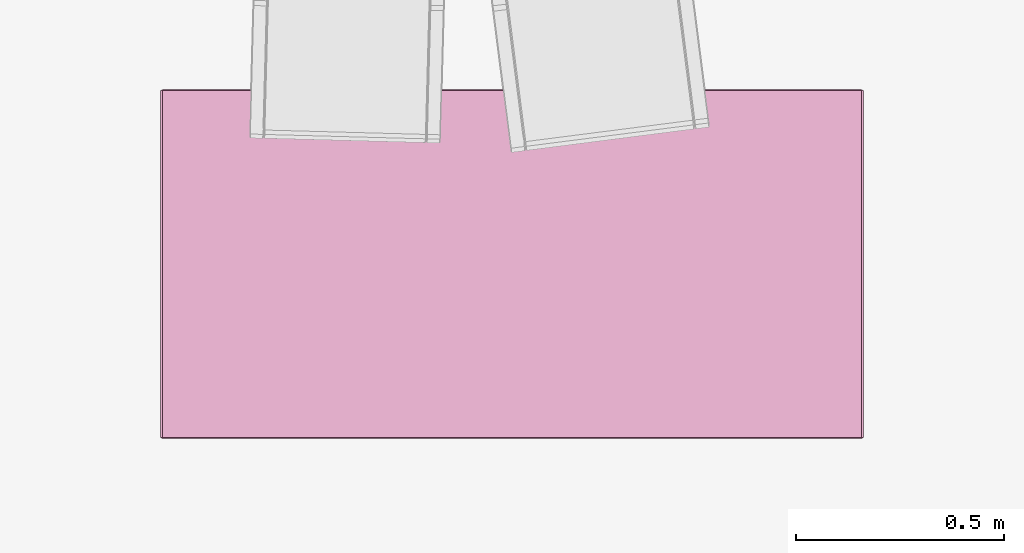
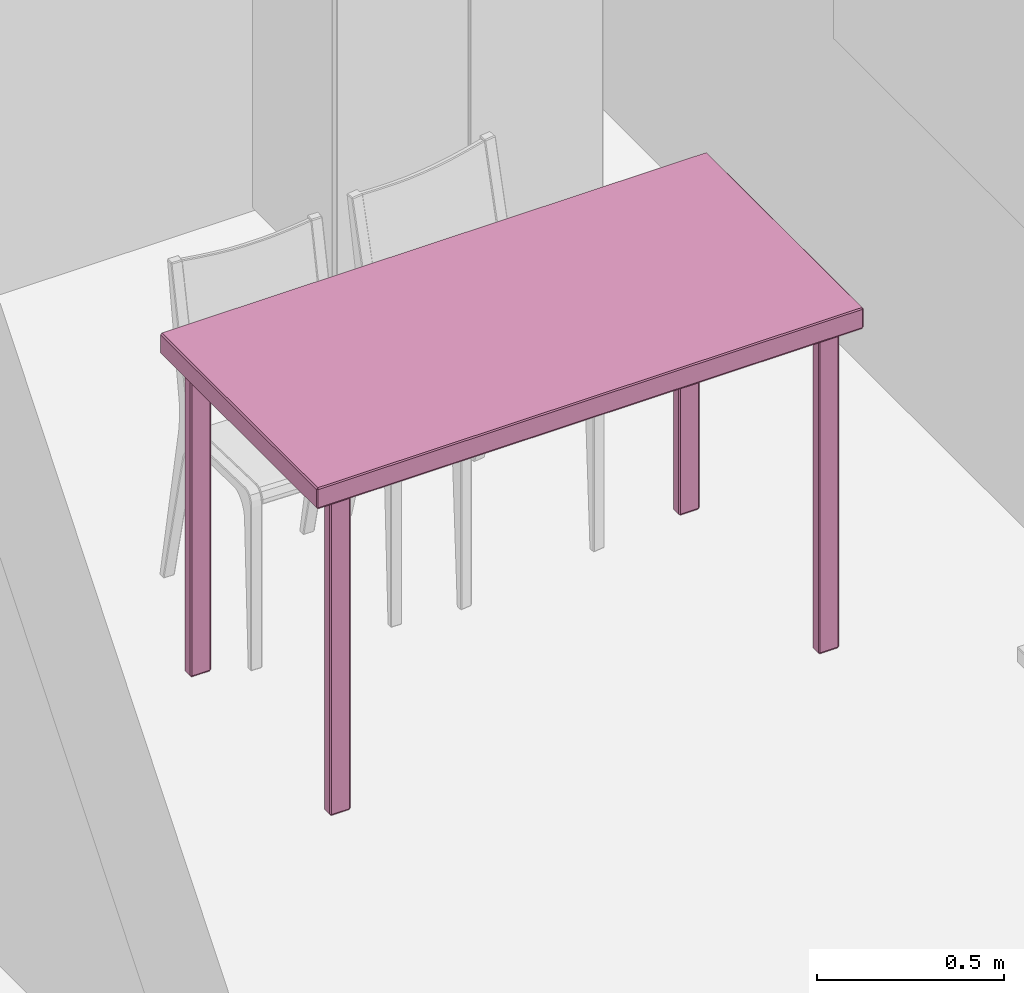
# One storey, part 25 of 26: 1 furniture element.
"""IFC4 building model written with IfcOpenShell, lengths in metres."""

from ifc_helpers import new_model, si_unit, direction, frame, origin_with_axes, place, context, project, spatial, polygons, type_object, element, save


model = new_model("IFC4")

# Units and contexts
model_context = context("Model", 3, precision=1e-05, world=origin_with_axes(), true_north=direction((0.996, -0.093, 0.0)))
ifc_project = project(units=[si_unit("LENGTHUNIT", "METRE"), si_unit("AREAUNIT", "SQUARE_METRE")], contexts=[model_context])

# Site, building, storey, space
site_placement = place(None, origin_with_axes())
site = spatial("IfcSite", under=ifc_project, at=site_placement, Name="Site", CompositionType="ELEMENT")
building_placement = place(site_placement, origin_with_axes())
building = spatial("IfcBuilding", under=site, at=building_placement, Name="Building", CompositionType="ELEMENT")
storey_placement = place(building_placement, frame((0.0, 0.0, 0.0500001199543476), z_axis=(0.0, 0.0, 1.0), x_axis=(1.0, 0.0, 0.0)))
storey = spatial("IfcBuildingStorey", under=building, at=storey_placement, Name="Story 0", CompositionType="ELEMENT", Elevation=0.0500000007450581)
space_placement = place(storey_placement, frame((26.3265957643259, 5.77526912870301, 0.0), z_axis=(0.0, 0.0, 1.0), x_axis=(1.0, 0.0, 0.0)))
space = spatial("IfcSpace", under=storey, at=space_placement, Name="012", CompositionType="ELEMENT")

# Furniture
furniture_type = type_object("IfcFurnitureType", Name="6c907b45-ae28-4f84-a248-2c9baa9ad02d", AssemblyPlace="NOTDEFINED", PredefinedType="USERDEFINED")
furniture_placement = place(space_placement, frame((1.70349075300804, 3.16185416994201, 0.554396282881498), z_axis=(0.0, 0.0, 0.999999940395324), x_axis=(0.0, 0.999999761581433, 0.0)))
element("IfcFurniture", 1, at=furniture_placement, inside=space, type_object=furniture_type, Name="Table", ObjectType="Table", PredefinedType="USERDEFINED", context=model_context, shape_type="Tessellation", body=[
    polygons([(0.4166, 0.844, 0.4901), (-0.4166, 0.844, 0.4901), (0.4166, 0.844, 0.5495), (-0.4166, 0.844, 0.5495), (0.4166, 0.844, 0.5495), (-0.4166, 0.844, 0.4901), (0.3571, -0.7815, 0.5026), (0.3571, -0.7262, 0.5026), (0.3571, -0.7815, -0.5495), (0.3571, -0.7262, -0.5495), (0.3571, -0.7815, -0.5495), (0.3571, -0.7262, 0.5026), (0.3867, -0.7857, 0.5026), (0.3592, -0.7857, 0.5026), (0.3867, -0.7857, -0.5495), (0.3592, -0.7857, -0.5495), (0.3867, -0.7857, -0.5495), (0.3592, -0.7857, 0.5026), (0.3888, -0.7262, 0.5026), (0.3888, -0.7815, 0.5026), (0.3888, -0.7262, -0.5495), (0.3888, -0.7815, -0.5495), (0.3888, -0.7262, -0.5495), (0.3888, -0.7815, 0.5026), (0.3592, -0.7219, 0.5026), (0.3867, -0.7219, 0.5026), (0.3592, -0.7219, -0.5495), (0.3867, -0.7219, -0.5495), (0.3592, -0.7219, -0.5495), (0.3867, -0.7219, 0.5026), (0.3571, 0.7815, 0.5026), (0.3571, 0.7815, -0.5495), (0.3571, 0.7262, 0.5026), (0.3571, 0.7262, -0.5495), (0.3571, 0.7262, 0.5026), (0.3571, 0.7815, -0.5495), (0.3867, 0.7857, 0.5026), (0.3867, 0.7857, -0.5495), (0.3592, 0.7857, 0.5026), (0.3592, 0.7857, -0.5495), (0.3592, 0.7857, 0.5026), (0.3867, 0.7857, -0.5495), (0.3888, 0.7262, 0.5026), (0.3888, 0.7262, -0.5495), (0.3888, 0.7815, 0.5026), (0.3888, 0.7815, -0.5495), (0.3888, 0.7815, 0.5026), (0.3888, 0.7262, -0.5495), (0.3592, 0.7219, 0.5026), (0.3592, 0.7219, -0.5495), (0.3867, 0.7219, 0.5026), (0.3867, 0.7219, -0.5495), (0.3867, 0.7219, 0.5026), (0.3592, 0.7219, -0.5495), (0.4187, 0.8398, 0.4901), (0.4187, 0.8398, 0.5495), (0.4187, -0.8398, 0.4901), (0.4187, -0.8398, 0.5495), (0.4187, -0.8398, 0.4901), (0.4187, 0.8398, 0.5495), (-0.4187, 0.8398, 0.5495), (-0.4187, 0.8398, 0.4901), (-0.4187, -0.8398, 0.5495), (-0.4187, -0.8398, 0.4901), (-0.4187, -0.8398, 0.5495), (-0.4187, 0.8398, 0.4901), (-0.3571, -0.7815, 0.5026), (-0.3571, -0.7815, -0.5495), (-0.3571, -0.7262, 0.5026), (-0.3571, -0.7262, -0.5495), (-0.3571, -0.7262, 0.5026), (-0.3571, -0.7815, -0.5495), (-0.3867, -0.7857, 0.5026), (-0.3867, -0.7857, -0.5495), (-0.3592, -0.7857, 0.5026), (-0.3592, -0.7857, -0.5495), (-0.3592, -0.7857, 0.5026), (-0.3867, -0.7857, -0.5495), (-0.3888, -0.7262, 0.5026), (-0.3888, -0.7262, -0.5495), (-0.3888, -0.7815, 0.5026), (-0.3888, -0.7815, -0.5495), (-0.3888, -0.7815, 0.5026), (-0.3888, -0.7262, -0.5495), (-0.3592, -0.7219, 0.5026), (-0.3592, -0.7219, -0.5495), (-0.3867, -0.7219, 0.5026), (-0.3867, -0.7219, -0.5495), (-0.3867, -0.7219, 0.5026), (-0.3592, -0.7219, -0.5495), (-0.3571, 0.7815, 0.5026), (-0.3571, 0.7262, 0.5026), (-0.3571, 0.7815, -0.5495), (-0.3571, 0.7262, -0.5495), (-0.3571, 0.7815, -0.5495), (-0.3571, 0.7262, 0.5026), (-0.3867, 0.7857, 0.5026), (-0.3592, 0.7857, 0.5026), (-0.3867, 0.7857, -0.5495), (-0.3592, 0.7857, -0.5495), (-0.3867, 0.7857, -0.5495), (-0.3592, 0.7857, 0.5026), (-0.3888, 0.7262, 0.5026), (-0.3888, 0.7815, 0.5026), (-0.3888, 0.7262, -0.5495), (-0.3888, 0.7815, -0.5495), (-0.3888, 0.7262, -0.5495), (-0.3888, 0.7815, 0.5026), (-0.3592, 0.7219, 0.5026), (-0.3867, 0.7219, 0.5026), (-0.3592, 0.7219, -0.5495), (-0.3867, 0.7219, -0.5495), (-0.3592, 0.7219, -0.5495), (-0.3867, 0.7219, 0.5026), (-0.4166, 0.8398, 0.5544), (-0.4166, -0.8398, 0.5544), (0.4166, 0.8398, 0.5544), (0.4166, -0.8398, 0.5544), (0.4166, 0.8398, 0.5544), (-0.4166, -0.8398, 0.5544), (0.4166, -0.844, 0.4901), (0.4166, -0.844, 0.5495), (-0.4166, -0.844, 0.4901), (-0.4166, -0.844, 0.5495), (-0.4166, -0.844, 0.4901), (0.4166, -0.844, 0.5495), (0.4166, -0.8398, 0.4852), (-0.4166, -0.8398, 0.4852), (0.4166, 0.8398, 0.4852), (-0.4166, 0.8398, 0.4852), (0.4166, 0.8398, 0.4852), (-0.4166, -0.8398, 0.4852), (0.3867, -0.7815, 0.5074), (0.3867, -0.7262, 0.5074), (0.3592, -0.7815, 0.5074), (0.3592, -0.7262, 0.5074), (0.3592, -0.7815, 0.5074), (0.3867, -0.7262, 0.5074), (0.3867, -0.7262, -0.5544), (0.3867, -0.7815, -0.5544), (0.3592, -0.7262, -0.5544), (0.3592, -0.7815, -0.5544), (0.3592, -0.7262, -0.5544), (0.3867, -0.7815, -0.5544), (0.3867, 0.7815, -0.5544), (0.3867, 0.7262, -0.5544), (0.3592, 0.7815, -0.5544), (0.3592, 0.7262, -0.5544), (0.3592, 0.7815, -0.5544), (0.3867, 0.7262, -0.5544), (0.3867, 0.7262, 0.5074), (0.3867, 0.7815, 0.5074), (0.3592, 0.7262, 0.5074), (0.3592, 0.7815, 0.5074), (0.3592, 0.7262, 0.5074), (0.3867, 0.7815, 0.5074), (-0.3867, -0.7815, -0.5544), (-0.3867, -0.7262, -0.5544), (-0.3592, -0.7815, -0.5544), (-0.3592, -0.7262, -0.5544), (-0.3592, -0.7815, -0.5544), (-0.3867, -0.7262, -0.5544), (-0.3867, -0.7262, 0.5074), (-0.3867, -0.7815, 0.5074), (-0.3592, -0.7262, 0.5074), (-0.3592, -0.7815, 0.5074), (-0.3592, -0.7262, 0.5074), (-0.3867, -0.7815, 0.5074), (-0.3867, 0.7815, 0.5074), (-0.3867, 0.7262, 0.5074), (-0.3592, 0.7815, 0.5074), (-0.3592, 0.7262, 0.5074), (-0.3592, 0.7815, 0.5074), (-0.3867, 0.7262, 0.5074), (-0.3867, 0.7262, -0.5544), (-0.3867, 0.7815, -0.5544), (-0.3592, 0.7262, -0.5544), (-0.3592, 0.7815, -0.5544), (-0.3592, 0.7262, -0.5544), (-0.3867, 0.7815, -0.5544), (-0.4166, 0.8398, 0.5544), (-0.4166, 0.844, 0.5495), (-0.4187, 0.8398, 0.5495), (0.3592, -0.7262, -0.5544), (0.3571, -0.7262, -0.5495), (0.3592, -0.7219, -0.5495), (0.3592, -0.7815, -0.5544), (0.3592, -0.7857, -0.5495), (0.3571, -0.7815, -0.5495), (0.3867, -0.7815, -0.5544), (0.3888, -0.7815, -0.5495), (0.3867, -0.7857, -0.5495), (0.3867, -0.7262, -0.5544), (0.3867, -0.7219, -0.5495), (0.3888, -0.7262, -0.5495), (0.3592, -0.7262, 0.5074), (0.3592, -0.7219, 0.5026), (0.3571, -0.7262, 0.5026), (0.3592, 0.7219, -0.5495), (0.3571, 0.7262, -0.5495), (0.3592, 0.7262, -0.5544), (0.3592, 0.7815, 0.5074), (0.3592, 0.7857, 0.5026), (0.3571, 0.7815, 0.5026), (0.3867, 0.7815, 0.5074), (0.3888, 0.7815, 0.5026), (0.3867, 0.7857, 0.5026), (0.3867, 0.7262, 0.5074), (0.3867, 0.7219, 0.5026), (0.3888, 0.7262, 0.5026), (0.4166, -0.844, 0.5495), (0.4187, -0.8398, 0.5495), (0.4166, -0.8398, 0.5544), (0.4166, 0.8398, 0.5544), (0.4187, 0.8398, 0.5495), (0.4166, 0.844, 0.5495), (-0.4166, -0.844, 0.4901), (-0.4187, -0.8398, 0.4901), (-0.4166, -0.8398, 0.4852), (-0.4166, 0.8398, 0.4852), (-0.4187, 0.8398, 0.4901), (-0.4166, 0.844, 0.4901), (-0.3592, -0.7219, -0.5495), (-0.3571, -0.7262, -0.5495), (-0.3592, -0.7262, -0.5544), (-0.3592, -0.7815, 0.5074), (-0.3592, -0.7857, 0.5026), (-0.3571, -0.7815, 0.5026), (-0.3867, -0.7815, 0.5074), (-0.3888, -0.7815, 0.5026), (-0.3867, -0.7857, 0.5026), (-0.3867, -0.7262, 0.5074), (-0.3867, -0.7219, 0.5026), (-0.3888, -0.7262, 0.5026), (-0.3592, 0.7262, -0.5544), (-0.3571, 0.7262, -0.5495), (-0.3592, 0.7219, -0.5495), (-0.3592, 0.7815, -0.5544), (-0.3592, 0.7857, -0.5495), (-0.3571, 0.7815, -0.5495), (-0.3867, 0.7815, -0.5544), (-0.3888, 0.7815, -0.5495), (-0.3867, 0.7857, -0.5495), (-0.3867, 0.7262, -0.5544), (-0.3867, 0.7219, -0.5495), (-0.3888, 0.7262, -0.5495), (-0.3592, 0.7262, 0.5074), (-0.3592, 0.7219, 0.5026), (-0.3571, 0.7262, 0.5026), (-0.4166, -0.844, 0.5495), (-0.4166, -0.8398, 0.5544), (-0.4187, -0.8398, 0.5495), (0.4166, -0.844, 0.4901), (0.4166, -0.8398, 0.4852), (0.4187, -0.8398, 0.4901), (0.4187, 0.8398, 0.4901), (0.4166, 0.8398, 0.4852), (0.4166, 0.844, 0.4901), (0.3867, -0.7219, 0.5026), (0.3867, -0.7262, 0.5074), (0.3888, -0.7262, 0.5026), (0.3888, -0.7815, 0.5026), (0.3867, -0.7815, 0.5074), (0.3867, -0.7857, 0.5026), (0.3592, -0.7857, 0.5026), (0.3592, -0.7815, 0.5074), (0.3571, -0.7815, 0.5026), (0.3867, 0.7219, -0.5495), (0.3867, 0.7262, -0.5544), (0.3888, 0.7262, -0.5495), (0.3888, 0.7815, -0.5495), (0.3867, 0.7815, -0.5544), (0.3867, 0.7857, -0.5495), (0.3592, 0.7857, -0.5495), (0.3592, 0.7815, -0.5544), (0.3571, 0.7815, -0.5495), (0.3592, 0.7219, 0.5026), (0.3592, 0.7262, 0.5074), (0.3571, 0.7262, 0.5026), (-0.3867, -0.7219, -0.5495), (-0.3867, -0.7262, -0.5544), (-0.3888, -0.7262, -0.5495), (-0.3888, -0.7815, -0.5495), (-0.3867, -0.7815, -0.5544), (-0.3867, -0.7857, -0.5495), (-0.3592, -0.7857, -0.5495), (-0.3592, -0.7815, -0.5544), (-0.3571, -0.7815, -0.5495), (-0.3592, -0.7219, 0.5026), (-0.3592, -0.7262, 0.5074), (-0.3571, -0.7262, 0.5026), (-0.3867, 0.7219, 0.5026), (-0.3867, 0.7262, 0.5074), (-0.3888, 0.7262, 0.5026), (-0.3888, 0.7815, 0.5026), (-0.3867, 0.7815, 0.5074), (-0.3867, 0.7857, 0.5026), (-0.3592, 0.7857, 0.5026), (-0.3592, 0.7815, 0.5074), (-0.3571, 0.7815, 0.5026), (-0.4166, 0.844, 0.5495), (-0.4166, 0.844, 0.4901), (-0.4187, 0.8398, 0.5495), (-0.4187, 0.8398, 0.4901), (-0.4187, 0.8398, 0.5495), (-0.4166, 0.844, 0.4901), (-0.4166, 0.844, 0.4901), (0.4166, 0.844, 0.4901), (-0.4166, 0.8398, 0.4852), (0.4166, 0.8398, 0.4852), (-0.4166, 0.8398, 0.4852), (0.4166, 0.844, 0.4901), (0.4166, 0.844, 0.4901), (0.4166, 0.844, 0.5495), (0.4187, 0.8398, 0.4901), (0.4187, 0.8398, 0.5495), (0.4187, 0.8398, 0.4901), (0.4166, 0.844, 0.5495), (0.4166, 0.844, 0.5495), (-0.4166, 0.844, 0.5495), (0.4166, 0.8398, 0.5544), (-0.4166, 0.8398, 0.5544), (0.4166, 0.8398, 0.5544), (-0.4166, 0.844, 0.5495), (0.3571, -0.7262, -0.5495), (0.3571, -0.7262, 0.5026), (0.3592, -0.7219, -0.5495), (0.3592, -0.7219, 0.5026), (0.3592, -0.7219, -0.5495), (0.3571, -0.7262, 0.5026), (0.3571, -0.7262, 0.5026), (0.3571, -0.7815, 0.5026), (0.3592, -0.7262, 0.5074), (0.3592, -0.7815, 0.5074), (0.3592, -0.7262, 0.5074), (0.3571, -0.7815, 0.5026), (0.3571, -0.7815, 0.5026), (0.3571, -0.7815, -0.5495), (0.3592, -0.7857, 0.5026), (0.3592, -0.7857, -0.5495), (0.3592, -0.7857, 0.5026), (0.3571, -0.7815, -0.5495), (0.3571, -0.7815, -0.5495), (0.3571, -0.7262, -0.5495), (0.3592, -0.7815, -0.5544), (0.3592, -0.7262, -0.5544), (0.3592, -0.7815, -0.5544), (0.3571, -0.7262, -0.5495), (0.3592, -0.7857, 0.5026), (0.3867, -0.7857, 0.5026), (0.3592, -0.7815, 0.5074), (0.3867, -0.7815, 0.5074), (0.3592, -0.7815, 0.5074), (0.3867, -0.7857, 0.5026), (0.3867, -0.7857, 0.5026), (0.3867, -0.7857, -0.5495), (0.3888, -0.7815, 0.5026), (0.3888, -0.7815, -0.5495), (0.3888, -0.7815, 0.5026), (0.3867, -0.7857, -0.5495), (0.3867, -0.7857, -0.5495), (0.3592, -0.7857, -0.5495), (0.3867, -0.7815, -0.5544), (0.3592, -0.7815, -0.5544), (0.3867, -0.7815, -0.5544), (0.3592, -0.7857, -0.5495), (0.3888, -0.7815, 0.5026), (0.3888, -0.7262, 0.5026), (0.3867, -0.7815, 0.5074), (0.3867, -0.7262, 0.5074), (0.3867, -0.7815, 0.5074), (0.3888, -0.7262, 0.5026), (0.3888, -0.7262, 0.5026), (0.3888, -0.7262, -0.5495), (0.3867, -0.7219, 0.5026), (0.3867, -0.7219, -0.5495), (0.3867, -0.7219, 0.5026), (0.3888, -0.7262, -0.5495), (0.3888, -0.7262, -0.5495), (0.3888, -0.7815, -0.5495), (0.3867, -0.7262, -0.5544), (0.3867, -0.7815, -0.5544), (0.3867, -0.7262, -0.5544), (0.3888, -0.7815, -0.5495), (0.3867, -0.7219, 0.5026), (0.3592, -0.7219, 0.5026), (0.3867, -0.7262, 0.5074), (0.3592, -0.7262, 0.5074), (0.3867, -0.7262, 0.5074), (0.3592, -0.7219, 0.5026), (0.3592, -0.7219, -0.5495), (0.3867, -0.7219, -0.5495), (0.3592, -0.7262, -0.5544), (0.3867, -0.7262, -0.5544), (0.3592, -0.7262, -0.5544), (0.3867, -0.7219, -0.5495), (0.3571, 0.7262, -0.5495), (0.3571, 0.7815, -0.5495), (0.3592, 0.7262, -0.5544), (0.3592, 0.7815, -0.5544), (0.3592, 0.7262, -0.5544), (0.3571, 0.7815, -0.5495), (0.3571, 0.7815, -0.5495), (0.3571, 0.7815, 0.5026), (0.3592, 0.7857, -0.5495), (0.3592, 0.7857, 0.5026), (0.3592, 0.7857, -0.5495), (0.3571, 0.7815, 0.5026), (0.3571, 0.7815, 0.5026), (0.3571, 0.7262, 0.5026), (0.3592, 0.7815, 0.5074), (0.3592, 0.7262, 0.5074), (0.3592, 0.7815, 0.5074), (0.3571, 0.7262, 0.5026), (0.3571, 0.7262, 0.5026), (0.3571, 0.7262, -0.5495), (0.3592, 0.7219, 0.5026), (0.3592, 0.7219, -0.5495), (0.3592, 0.7219, 0.5026), (0.3571, 0.7262, -0.5495), (0.3592, 0.7857, -0.5495), (0.3867, 0.7857, -0.5495), (0.3592, 0.7815, -0.5544), (0.3867, 0.7815, -0.5544), (0.3592, 0.7815, -0.5544), (0.3867, 0.7857, -0.5495), (0.3867, 0.7857, -0.5495), (0.3867, 0.7857, 0.5026), (0.3888, 0.7815, -0.5495), (0.3888, 0.7815, 0.5026), (0.3888, 0.7815, -0.5495), (0.3867, 0.7857, 0.5026), (0.3867, 0.7857, 0.5026), (0.3592, 0.7857, 0.5026), (0.3867, 0.7815, 0.5074), (0.3592, 0.7815, 0.5074), (0.3867, 0.7815, 0.5074), (0.3592, 0.7857, 0.5026), (0.3888, 0.7815, -0.5495), (0.3888, 0.7262, -0.5495), (0.3867, 0.7815, -0.5544), (0.3867, 0.7262, -0.5544), (0.3867, 0.7815, -0.5544), (0.3888, 0.7262, -0.5495), (0.3888, 0.7262, -0.5495), (0.3888, 0.7262, 0.5026), (0.3867, 0.7219, -0.5495), (0.3867, 0.7219, 0.5026), (0.3867, 0.7219, -0.5495), (0.3888, 0.7262, 0.5026), (0.3888, 0.7262, 0.5026), (0.3888, 0.7815, 0.5026), (0.3867, 0.7262, 0.5074), (0.3867, 0.7815, 0.5074), (0.3867, 0.7262, 0.5074), (0.3888, 0.7815, 0.5026), (0.3867, 0.7219, -0.5495), (0.3592, 0.7219, -0.5495), (0.3867, 0.7262, -0.5544), (0.3592, 0.7262, -0.5544), (0.3867, 0.7262, -0.5544), (0.3592, 0.7219, -0.5495), (0.3592, 0.7219, 0.5026), (0.3867, 0.7219, 0.5026), (0.3592, 0.7262, 0.5074), (0.3867, 0.7262, 0.5074), (0.3592, 0.7262, 0.5074), (0.3867, 0.7219, 0.5026), (0.4187, -0.8398, 0.5495), (0.4187, 0.8398, 0.5495), (0.4166, -0.8398, 0.5544), (0.4166, 0.8398, 0.5544), (0.4166, -0.8398, 0.5544), (0.4187, 0.8398, 0.5495), (0.4187, 0.8398, 0.4901), (0.4187, -0.8398, 0.4901), (0.4166, 0.8398, 0.4852), (0.4166, -0.8398, 0.4852), (0.4166, 0.8398, 0.4852), (0.4187, -0.8398, 0.4901), (0.4187, -0.8398, 0.4901), (0.4187, -0.8398, 0.5495), (0.4166, -0.844, 0.4901), (0.4166, -0.844, 0.5495), (0.4166, -0.844, 0.4901), (0.4187, -0.8398, 0.5495), (-0.4187, -0.8398, 0.4901), (-0.4187, 0.8398, 0.4901), (-0.4166, -0.8398, 0.4852), (-0.4166, 0.8398, 0.4852), (-0.4166, -0.8398, 0.4852), (-0.4187, 0.8398, 0.4901), (-0.4187, 0.8398, 0.5495), (-0.4187, -0.8398, 0.5495), (-0.4166, 0.8398, 0.5544), (-0.4166, -0.8398, 0.5544), (-0.4166, 0.8398, 0.5544), (-0.4187, -0.8398, 0.5495), (-0.4187, -0.8398, 0.5495), (-0.4187, -0.8398, 0.4901), (-0.4166, -0.844, 0.5495), (-0.4166, -0.844, 0.4901), (-0.4166, -0.844, 0.5495), (-0.4187, -0.8398, 0.4901), (-0.3571, -0.7262, -0.5495), (-0.3571, -0.7815, -0.5495), (-0.3592, -0.7262, -0.5544), (-0.3592, -0.7815, -0.5544), (-0.3592, -0.7262, -0.5544), (-0.3571, -0.7815, -0.5495), (-0.3571, -0.7815, -0.5495), (-0.3571, -0.7815, 0.5026), (-0.3592, -0.7857, -0.5495), (-0.3592, -0.7857, 0.5026), (-0.3592, -0.7857, -0.5495), (-0.3571, -0.7815, 0.5026), (-0.3571, -0.7815, 0.5026), (-0.3571, -0.7262, 0.5026), (-0.3592, -0.7815, 0.5074), (-0.3592, -0.7262, 0.5074), (-0.3592, -0.7815, 0.5074), (-0.3571, -0.7262, 0.5026), (-0.3571, -0.7262, 0.5026), (-0.3571, -0.7262, -0.5495), (-0.3592, -0.7219, 0.5026), (-0.3592, -0.7219, -0.5495), (-0.3592, -0.7219, 0.5026), (-0.3571, -0.7262, -0.5495), (-0.3592, -0.7857, -0.5495), (-0.3867, -0.7857, -0.5495), (-0.3592, -0.7815, -0.5544), (-0.3867, -0.7815, -0.5544), (-0.3592, -0.7815, -0.5544), (-0.3867, -0.7857, -0.5495), (-0.3867, -0.7857, -0.5495), (-0.3867, -0.7857, 0.5026), (-0.3888, -0.7815, -0.5495), (-0.3888, -0.7815, 0.5026), (-0.3888, -0.7815, -0.5495), (-0.3867, -0.7857, 0.5026), (-0.3867, -0.7857, 0.5026), (-0.3592, -0.7857, 0.5026), (-0.3867, -0.7815, 0.5074), (-0.3592, -0.7815, 0.5074), (-0.3867, -0.7815, 0.5074), (-0.3592, -0.7857, 0.5026), (-0.3888, -0.7815, -0.5495), (-0.3888, -0.7262, -0.5495), (-0.3867, -0.7815, -0.5544), (-0.3867, -0.7262, -0.5544), (-0.3867, -0.7815, -0.5544), (-0.3888, -0.7262, -0.5495), (-0.3888, -0.7262, -0.5495), (-0.3888, -0.7262, 0.5026), (-0.3867, -0.7219, -0.5495), (-0.3867, -0.7219, 0.5026), (-0.3867, -0.7219, -0.5495), (-0.3888, -0.7262, 0.5026), (-0.3888, -0.7262, 0.5026), (-0.3888, -0.7815, 0.5026), (-0.3867, -0.7262, 0.5074), (-0.3867, -0.7815, 0.5074), (-0.3867, -0.7262, 0.5074), (-0.3888, -0.7815, 0.5026), (-0.3867, -0.7219, -0.5495), (-0.3592, -0.7219, -0.5495), (-0.3867, -0.7262, -0.5544), (-0.3592, -0.7262, -0.5544), (-0.3867, -0.7262, -0.5544), (-0.3592, -0.7219, -0.5495), (-0.3592, -0.7219, 0.5026), (-0.3867, -0.7219, 0.5026), (-0.3592, -0.7262, 0.5074), (-0.3867, -0.7262, 0.5074), (-0.3592, -0.7262, 0.5074), (-0.3867, -0.7219, 0.5026), (-0.3571, 0.7262, -0.5495), (-0.3571, 0.7262, 0.5026), (-0.3592, 0.7219, -0.5495), (-0.3592, 0.7219, 0.5026), (-0.3592, 0.7219, -0.5495), (-0.3571, 0.7262, 0.5026), (-0.3571, 0.7262, 0.5026), (-0.3571, 0.7815, 0.5026), (-0.3592, 0.7262, 0.5074), (-0.3592, 0.7815, 0.5074), (-0.3592, 0.7262, 0.5074), (-0.3571, 0.7815, 0.5026), (-0.3571, 0.7815, 0.5026), (-0.3571, 0.7815, -0.5495), (-0.3592, 0.7857, 0.5026), (-0.3592, 0.7857, -0.5495), (-0.3592, 0.7857, 0.5026), (-0.3571, 0.7815, -0.5495), (-0.3571, 0.7815, -0.5495), (-0.3571, 0.7262, -0.5495), (-0.3592, 0.7815, -0.5544), (-0.3592, 0.7262, -0.5544), (-0.3592, 0.7815, -0.5544), (-0.3571, 0.7262, -0.5495), (-0.3592, 0.7857, 0.5026), (-0.3867, 0.7857, 0.5026), (-0.3592, 0.7815, 0.5074), (-0.3867, 0.7815, 0.5074), (-0.3592, 0.7815, 0.5074), (-0.3867, 0.7857, 0.5026), (-0.3867, 0.7857, 0.5026), (-0.3867, 0.7857, -0.5495), (-0.3888, 0.7815, 0.5026), (-0.3888, 0.7815, -0.5495), (-0.3888, 0.7815, 0.5026), (-0.3867, 0.7857, -0.5495), (-0.3867, 0.7857, -0.5495), (-0.3592, 0.7857, -0.5495), (-0.3867, 0.7815, -0.5544), (-0.3592, 0.7815, -0.5544), (-0.3867, 0.7815, -0.5544), (-0.3592, 0.7857, -0.5495), (-0.3888, 0.7815, 0.5026), (-0.3888, 0.7262, 0.5026), (-0.3867, 0.7815, 0.5074), (-0.3867, 0.7262, 0.5074), (-0.3867, 0.7815, 0.5074), (-0.3888, 0.7262, 0.5026), (-0.3888, 0.7262, 0.5026), (-0.3888, 0.7262, -0.5495), (-0.3867, 0.7219, 0.5026), (-0.3867, 0.7219, -0.5495), (-0.3867, 0.7219, 0.5026), (-0.3888, 0.7262, -0.5495), (-0.3888, 0.7262, -0.5495), (-0.3888, 0.7815, -0.5495), (-0.3867, 0.7262, -0.5544), (-0.3867, 0.7815, -0.5544), (-0.3867, 0.7262, -0.5544), (-0.3888, 0.7815, -0.5495), (-0.3867, 0.7219, 0.5026), (-0.3592, 0.7219, 0.5026), (-0.3867, 0.7262, 0.5074), (-0.3592, 0.7262, 0.5074), (-0.3867, 0.7262, 0.5074), (-0.3592, 0.7219, 0.5026), (-0.3592, 0.7219, -0.5495), (-0.3867, 0.7219, -0.5495), (-0.3592, 0.7262, -0.5544), (-0.3867, 0.7262, -0.5544), (-0.3592, 0.7262, -0.5544), (-0.3867, 0.7219, -0.5495), (0.4166, -0.8398, 0.5544), (-0.4166, -0.8398, 0.5544), (0.4166, -0.844, 0.5495), (-0.4166, -0.844, 0.5495), (0.4166, -0.844, 0.5495), (-0.4166, -0.8398, 0.5544), (0.4166, -0.844, 0.4901), (-0.4166, -0.844, 0.4901), (0.4166, -0.8398, 0.4852), (-0.4166, -0.8398, 0.4852), (0.4166, -0.8398, 0.4852), (-0.4166, -0.844, 0.4901)], [[[1, 2, 3]], [[4, 5, 6]], [[7, 8, 9]], [[10, 11, 12]], [[13, 14, 15]], [[16, 17, 18]], [[19, 20, 21]], [[22, 23, 24]], [[25, 26, 27]], [[28, 29, 30]], [[31, 32, 33]], [[34, 35, 36]], [[37, 38, 39]], [[40, 41, 42]], [[43, 44, 45]], [[46, 47, 48]], [[49, 50, 51]], [[52, 53, 54]], [[55, 56, 57]], [[58, 59, 60]], [[61, 62, 63]], [[64, 65, 66]], [[67, 68, 69]], [[70, 71, 72]], [[73, 74, 75]], [[76, 77, 78]], [[79, 80, 81]], [[82, 83, 84]], [[85, 86, 87]], [[88, 89, 90]], [[91, 92, 93]], [[94, 95, 96]], [[97, 98, 99]], [[100, 101, 102]], [[103, 104, 105]], [[106, 107, 108]], [[109, 110, 111]], [[112, 113, 114]], [[115, 116, 117]], [[118, 119, 120]], [[121, 122, 123]], [[124, 125, 126]], [[127, 128, 129]], [[130, 131, 132]], [[133, 134, 135]], [[136, 137, 138]], [[139, 140, 141]], [[142, 143, 144]], [[145, 146, 147]], [[148, 149, 150]], [[151, 152, 153]], [[154, 155, 156]], [[157, 158, 159]], [[160, 161, 162]], [[163, 164, 165]], [[166, 167, 168]], [[169, 170, 171]], [[172, 173, 174]], [[175, 176, 177]], [[178, 179, 180]], [[181, 182, 183]], [[184, 185, 186]], [[187, 188, 189]], [[190, 191, 192]], [[193, 194, 195]], [[196, 197, 198]], [[199, 200, 201]], [[202, 203, 204]], [[205, 206, 207]], [[208, 209, 210]], [[211, 212, 213]], [[214, 215, 216]], [[217, 218, 219]], [[220, 221, 222]], [[223, 224, 225]], [[226, 227, 228]], [[229, 230, 231]], [[232, 233, 234]], [[235, 236, 237]], [[238, 239, 240]], [[241, 242, 243]], [[244, 245, 246]], [[247, 248, 249]], [[250, 251, 252]], [[253, 254, 255]], [[256, 257, 258]], [[259, 260, 261]], [[262, 263, 264]], [[265, 266, 267]], [[268, 269, 270]], [[271, 272, 273]], [[274, 275, 276]], [[277, 278, 279]], [[280, 281, 282]], [[283, 284, 285]], [[286, 287, 288]], [[289, 290, 291]], [[292, 293, 294]], [[295, 296, 297]], [[298, 299, 300]], [[301, 302, 303]], [[304, 305, 306]], [[307, 308, 309]], [[310, 311, 312]], [[313, 314, 315]], [[316, 317, 318]], [[319, 320, 321]], [[322, 323, 324]], [[325, 326, 327]], [[328, 329, 330]], [[331, 332, 333]], [[334, 335, 336]], [[337, 338, 339]], [[340, 341, 342]], [[343, 344, 345]], [[346, 347, 348]], [[349, 350, 351]], [[352, 353, 354]], [[355, 356, 357]], [[358, 359, 360]], [[361, 362, 363]], [[364, 365, 366]], [[367, 368, 369]], [[370, 371, 372]], [[373, 374, 375]], [[376, 377, 378]], [[379, 380, 381]], [[382, 383, 384]], [[385, 386, 387]], [[388, 389, 390]], [[391, 392, 393]], [[394, 395, 396]], [[397, 398, 399]], [[400, 401, 402]], [[403, 404, 405]], [[406, 407, 408]], [[409, 410, 411]], [[412, 413, 414]], [[415, 416, 417]], [[418, 419, 420]], [[421, 422, 423]], [[424, 425, 426]], [[427, 428, 429]], [[430, 431, 432]], [[433, 434, 435]], [[436, 437, 438]], [[439, 440, 441]], [[442, 443, 444]], [[445, 446, 447]], [[448, 449, 450]], [[451, 452, 453]], [[454, 455, 456]], [[457, 458, 459]], [[460, 461, 462]], [[463, 464, 465]], [[466, 467, 468]], [[469, 470, 471]], [[472, 473, 474]], [[475, 476, 477]], [[478, 479, 480]], [[481, 482, 483]], [[484, 485, 486]], [[487, 488, 489]], [[490, 491, 492]], [[493, 494, 495]], [[496, 497, 498]], [[499, 500, 501]], [[502, 503, 504]], [[505, 506, 507]], [[508, 509, 510]], [[511, 512, 513]], [[514, 515, 516]], [[517, 518, 519]], [[520, 521, 522]], [[523, 524, 525]], [[526, 527, 528]], [[529, 530, 531]], [[532, 533, 534]], [[535, 536, 537]], [[538, 539, 540]], [[541, 542, 543]], [[544, 545, 546]], [[547, 548, 549]], [[550, 551, 552]], [[553, 554, 555]], [[556, 557, 558]], [[559, 560, 561]], [[562, 563, 564]], [[565, 566, 567]], [[568, 569, 570]], [[571, 572, 573]], [[574, 575, 576]], [[577, 578, 579]], [[580, 581, 582]], [[583, 584, 585]], [[586, 587, 588]], [[589, 590, 591]], [[592, 593, 594]], [[595, 596, 597]], [[598, 599, 600]], [[601, 602, 603]], [[604, 605, 606]], [[607, 608, 609]], [[610, 611, 612]], [[613, 614, 615]], [[616, 617, 618]], [[619, 620, 621]], [[622, 623, 624]], [[625, 626, 627]], [[628, 629, 630]], [[631, 632, 633]], [[634, 635, 636]], [[637, 638, 639]], [[640, 641, 642]], [[643, 644, 645]], [[646, 647, 648]], [[649, 650, 651]], [[652, 653, 654]], [[655, 656, 657]], [[658, 659, 660]]]),
])

save(model, "model.ifc")
